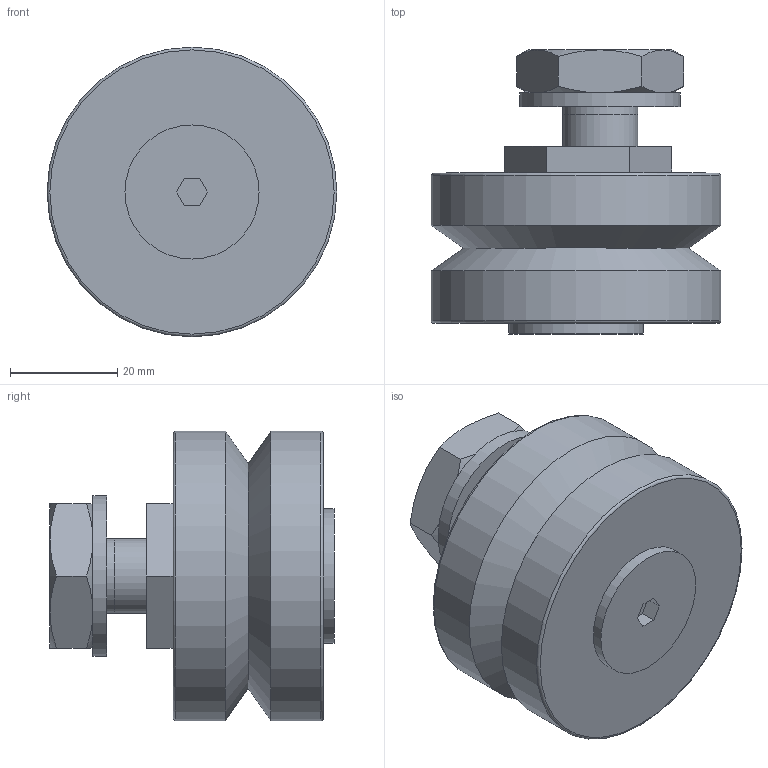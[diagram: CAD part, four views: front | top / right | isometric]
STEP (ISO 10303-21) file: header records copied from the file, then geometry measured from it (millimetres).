
FILE_DESCRIPTION(('STEP AP203'),'1');
FILE_NAME('//192.168.1.1/share/s-4 技術開発/s-4-4_CAD/s-4-4-6_見直し、確認済み/013 修正済み(済)/ジャーナル_TOP/NAS/NAS-54-EW.step','2022-03-11T07:35:39',(' '),(' '),'Spatial InterOp 3D',' ',' ');
FILE_SCHEMA(('CONFIG_CONTROL_DESIGN'));
Length unit declared in the file: millimetre
Products named in the file (3): 1; 2; 3
Bounding box: 54 x 52.95 x 54 mm (x, y, z)
Volume: 72262.1 mm3; surface area: 14996.6 mm2
Topology: 3 solids, 3 shells, 59 faces, 130 edges, 81 vertices
Faces by surface type: plane 34, cone 14, cylinder 8, torus 2, sphere 1
Full cylindrical faces by diameter (mm): 12 x1, 14 x2, 15 x1, 25 x1, 30 x1, 54 x2
Entity records: 1748 total; most frequent: CARTESIAN_POINT 398, DIRECTION 250, ORIENTED_EDGE 228, EDGE_CURVE 114, AXIS2_PLACEMENT_3D 98, EDGE_LOOP 80, VERTEX_POINT 78, FACE_OUTER_BOUND 70
